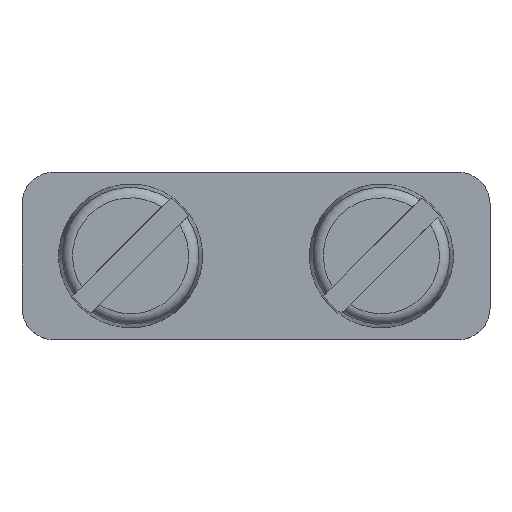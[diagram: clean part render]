
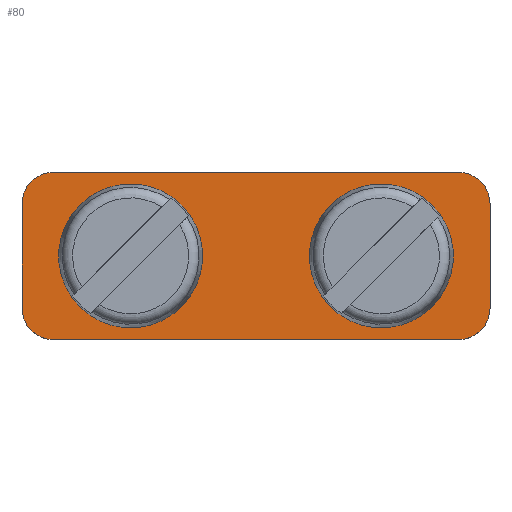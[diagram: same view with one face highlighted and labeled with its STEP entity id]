
A CAD part, top view. The second image highlights one B-rep face of the part: STEP entity #80.
In plain terms, the highlighted planar face has unit normal (0, 0, 1).
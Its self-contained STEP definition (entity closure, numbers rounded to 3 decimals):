
#80=ADVANCED_FACE('',(#458,#460,#462),#464,.F.);
#458=FACE_BOUND('',#459,.T.);
#459=EDGE_LOOP('',(#771,#772,#773,#774,#775,#776,#777,#778));
#460=FACE_BOUND('',#461,.T.);
#461=EDGE_LOOP('',(#779));
#462=FACE_BOUND('',#463,.T.);
#463=EDGE_LOOP('',(#780));
#464=PLANE('',#465);
#465=AXIS2_PLACEMENT_3D('',#466,#467,#468);
#466=CARTESIAN_POINT('',(-0.005,0.,2.));
#467=DIRECTION('',(0.,0.,-1.));
#468=DIRECTION('',(1.,0.,0.));
#771=ORIENTED_EDGE('',*,*,#929,.F.);
#772=ORIENTED_EDGE('',*,*,#930,.F.);
#773=ORIENTED_EDGE('',*,*,#931,.F.);
#774=ORIENTED_EDGE('',*,*,#932,.F.);
#775=ORIENTED_EDGE('',*,*,#933,.F.);
#776=ORIENTED_EDGE('',*,*,#934,.F.);
#777=ORIENTED_EDGE('',*,*,#935,.F.);
#778=ORIENTED_EDGE('',*,*,#936,.F.);
#779=ORIENTED_EDGE('',*,*,#937,.F.);
#780=ORIENTED_EDGE('',*,*,#927,.F.);
#927=EDGE_CURVE('',#1009,#1009,#1010,.T.);
#929=EDGE_CURVE('',#1013,#1014,#1015,.T.);
#930=EDGE_CURVE('',#1016,#1013,#1017,.T.);
#931=EDGE_CURVE('',#1018,#1016,#1019,.T.);
#932=EDGE_CURVE('',#1020,#1018,#1021,.T.);
#933=EDGE_CURVE('',#1022,#1020,#1023,.T.);
#934=EDGE_CURVE('',#1024,#1022,#1025,.T.);
#935=EDGE_CURVE('',#1026,#1024,#1027,.T.);
#936=EDGE_CURVE('',#1014,#1026,#1028,.T.);
#937=EDGE_CURVE('',#1029,#1029,#1030,.T.);
#1009=VERTEX_POINT('',#1155);
#1010=CIRCLE('',#1156,3.25);
#1013=VERTEX_POINT('',#1165);
#1014=VERTEX_POINT('',#1166);
#1015=LINE('',#1167,#1168);
#1016=VERTEX_POINT('',#1170);
#1017=CIRCLE('',#1171,1.5);
#1018=VERTEX_POINT('',#1175);
#1019=LINE('',#1176,#1177);
#1020=VERTEX_POINT('',#1179);
#1021=CIRCLE('',#1180,1.5);
#1022=VERTEX_POINT('',#1184);
#1023=LINE('',#1185,#1186);
#1024=VERTEX_POINT('',#1188);
#1025=CIRCLE('',#1189,1.5);
#1026=VERTEX_POINT('',#1193);
#1027=LINE('',#1194,#1195);
#1028=CIRCLE('',#1197,1.5);
#1029=VERTEX_POINT('',#1201);
#1030=CIRCLE('',#1202,3.25);
#1155=CARTESIAN_POINT('',(8.45,-4.,2.));
#1156=AXIS2_PLACEMENT_3D('',#1157,#1158,#1159);
#1157=CARTESIAN_POINT('',(5.2,-4.,2.));
#1158=DIRECTION('',(0.,0.,1.));
#1159=DIRECTION('',(1.,0.,0.));
#1165=CARTESIAN_POINT('',(1.5,0.,2.));
#1166=CARTESIAN_POINT('',(20.9,0.,2.));
#1167=CARTESIAN_POINT('',(1.5,0.,2.));
#1168=VECTOR('',#1169,1.);
#1169=DIRECTION('',(1.,0.,0.));
#1170=CARTESIAN_POINT('',(0.,-1.5,2.));
#1171=AXIS2_PLACEMENT_3D('',#1172,#1173,#1174);
#1172=CARTESIAN_POINT('',(1.5,-1.5,2.));
#1173=DIRECTION('',(0.,0.,-1.));
#1174=DIRECTION('',(-1.,0.,0.));
#1175=CARTESIAN_POINT('',(0.,-6.5,2.));
#1176=CARTESIAN_POINT('',(0.,-6.5,2.));
#1177=VECTOR('',#1178,1.);
#1178=DIRECTION('',(0.,1.,0.));
#1179=CARTESIAN_POINT('',(1.5,-8.,2.));
#1180=AXIS2_PLACEMENT_3D('',#1181,#1182,#1183);
#1181=CARTESIAN_POINT('',(1.5,-6.5,2.));
#1182=DIRECTION('',(0.,0.,-1.));
#1183=DIRECTION('',(0.,-1.,0.));
#1184=CARTESIAN_POINT('',(20.9,-8.,2.));
#1185=CARTESIAN_POINT('',(20.9,-8.,2.));
#1186=VECTOR('',#1187,1.);
#1187=DIRECTION('',(-1.,0.,0.));
#1188=CARTESIAN_POINT('',(22.4,-6.5,2.));
#1189=AXIS2_PLACEMENT_3D('',#1190,#1191,#1192);
#1190=CARTESIAN_POINT('',(20.9,-6.5,2.));
#1191=DIRECTION('',(0.,0.,-1.));
#1192=DIRECTION('',(1.,0.,0.));
#1193=CARTESIAN_POINT('',(22.4,-1.5,2.));
#1194=CARTESIAN_POINT('',(22.4,-1.5,2.));
#1195=VECTOR('',#1196,1.);
#1196=DIRECTION('',(0.,-1.,0.));
#1197=AXIS2_PLACEMENT_3D('',#1198,#1199,#1200);
#1198=CARTESIAN_POINT('',(20.9,-1.5,2.));
#1199=DIRECTION('',(0.,0.,-1.));
#1200=DIRECTION('',(0.,1.,0.));
#1201=CARTESIAN_POINT('',(20.45,-4.,2.));
#1202=AXIS2_PLACEMENT_3D('',#1203,#1204,#1205);
#1203=CARTESIAN_POINT('',(17.2,-4.,2.));
#1204=DIRECTION('',(0.,0.,1.));
#1205=DIRECTION('',(1.,0.,0.));
